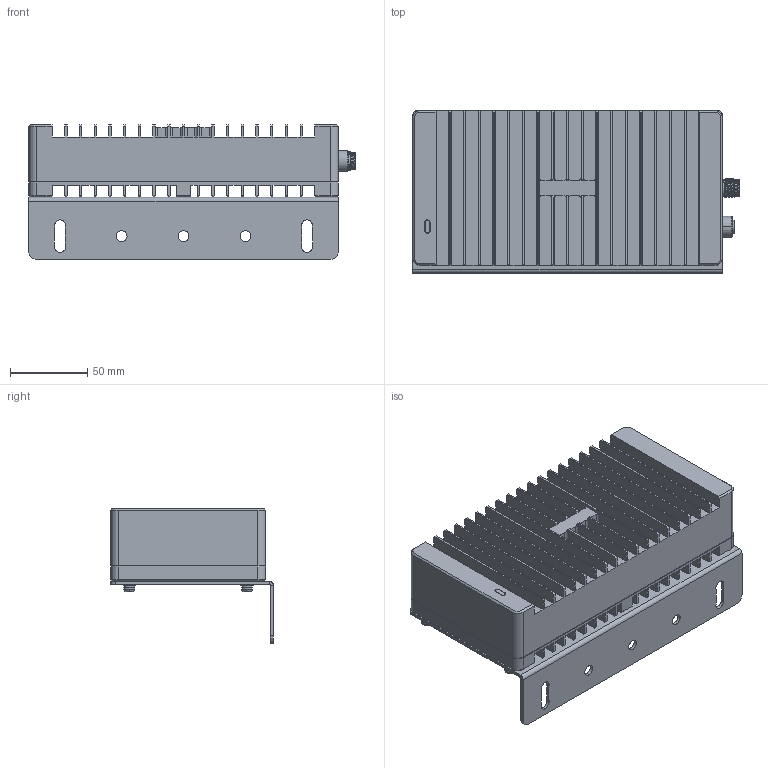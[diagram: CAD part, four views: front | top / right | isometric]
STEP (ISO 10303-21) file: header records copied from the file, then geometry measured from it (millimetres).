
FILE_DESCRIPTION((''),'2;1');
FILE_NAME('00-ALL-ASM-2_ASM','2020-11-13T14:27:03',('guodanfeng'),(''),'CREO PARAMETRIC BY PTC INC, 2017260','CREO PARAMETRIC BY PTC INC, 2017260','');
FILE_SCHEMA(('AUTOMOTIVE_DESIGN { 1 0 10303 214 1 1 1 1 }'));
Products named in the file (10): DE-14-007094; M12A-08PFFS-SH8BXX; M12A-12PMMS-SH8BXX; DE-14-007093; SC-PSF0M3X7; DE-14-007101; DE-18-000026; DE-11-008482; SC-PSFM4X8; 00-ALL-ASM-2_ASM
Assembly tree (19 placements, depth 2):
  00-ALL-ASM-2_ASM
    DE-14-007094
    M12A-08PFFS-SH8BXX
    M12A-12PMMS-SH8BXX
    DE-14-007093
    SC-PSF0M3X7  x6
    DE-14-007101
    DE-18-000026
    DE-11-008482
    SC-PSFM4X8  x6
Bounding box: 210.9 x 105 x 87 mm (x, y, z)
Volume: 925214.3 mm3; surface area: 232932.9 mm2
Topology: 19 solids, 81 shells, 2522 faces, 6580 edges, 4223 vertices
Faces by surface type: plane 1299, cylinder 790, cone 160, extrusion 100, bspline 94, torus 53, sphere 26
Entity records: 85821 total; most frequent: CARTESIAN_POINT 24684, ORIENTED_EDGE 9912, DIRECTION 9394, EDGE_CURVE 5022, PRESENTATION_STYLE_ASSIGNMENT 3350, STYLED_ITEM 3350, VERTEX_POINT 3318, AXIS2_PLACEMENT_3D 3205
